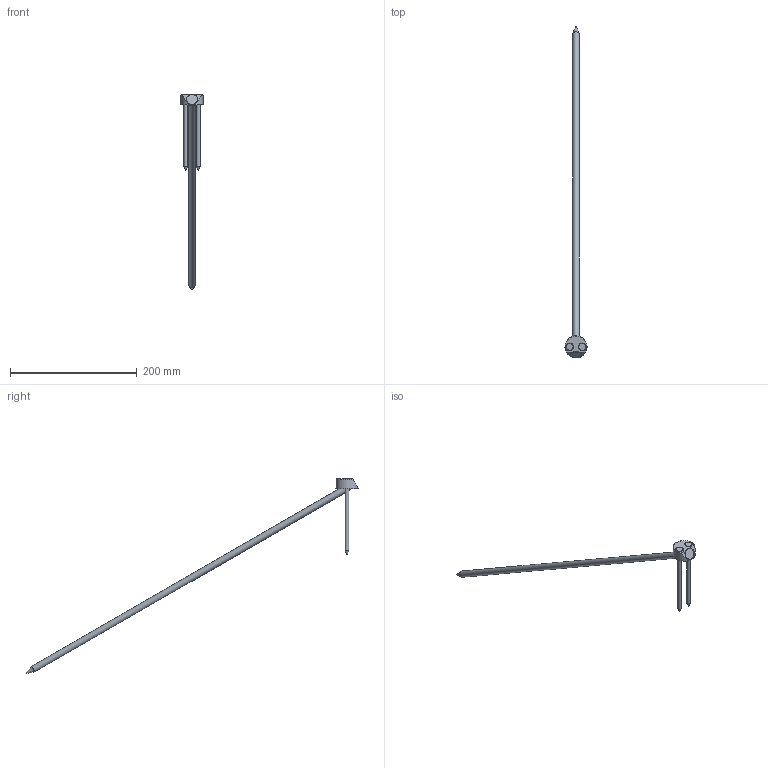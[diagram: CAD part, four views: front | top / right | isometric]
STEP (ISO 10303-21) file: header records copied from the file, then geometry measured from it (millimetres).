
FILE_DESCRIPTION(/* description */ ('Unknown'),/* implementation_level */ '2;1');
FILE_NAME(/* name */ 'T-JOINT_D35_W30_2xSK 6x120_1xSK 10x600',/* time_stamp */ '2022-02-03T11:25:39+01:00',/* author */ ('Unknown'),/* organization */ ('Unknown'),/* preprocessor_version */ 'ST-DEVELOPER v16.7',/* originating_system */ 'Solid Edge',/* authorisation */ 'Unknown');
FILE_SCHEMA (('AUTOMOTIVE_DESIGN {1 0 10303 214 3 1 1}'));
Length unit declared in the file: millimetre
Products named in the file (4): T-Joint_D35_W30_2xSK6x120_1xSK10x600; T-Joint_D35_W30; SK Schraube 6x120_ohne_Gewinde; SK Schraube 10x600_ohne_Gewinde_22042020
Assembly tree (4 placements, depth 2):
  T-Joint_D35_W30_2xSK6x120_1xSK10x600
    T-Joint_D35_W30
    SK Schraube 6x120_ohne_Gewinde  x2
    SK Schraube 10x600_ohne_Gewinde_22042020
Bounding box: 34.79 x 524.38 x 308.2 mm (x, y, z)
Volume: 64191.3 mm3; surface area: 28029.6 mm2
Topology: 4 solids, 4 shells, 35 faces, 67 edges, 41 vertices
Faces by surface type: cylinder 12, plane 11, cone 9, torus 3
Full cylindrical faces by diameter (mm): 6 x2, 6.2 x2, 6.3 x1, 10 x2, 11 x2, 12.5 x1, 18 x1, 34.8 x1
Entity records: 738 total; most frequent: DIRECTION 128, CARTESIAN_POINT 111, ORIENTED_EDGE 68, AXIS2_PLACEMENT_3D 63, EDGE_LOOP 55, FACE_BOUND 55, EDGE_CURVE 34, VERTEX_POINT 31
